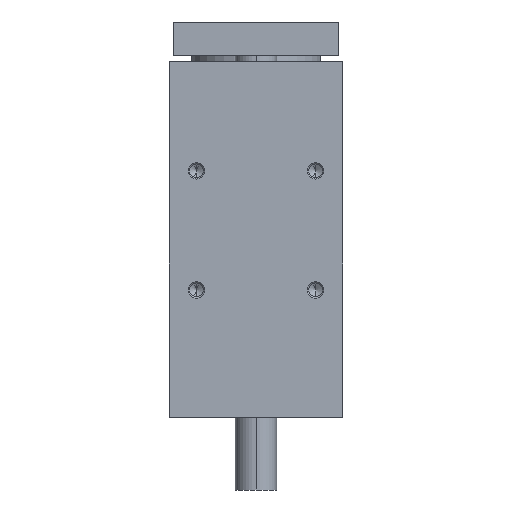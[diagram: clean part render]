
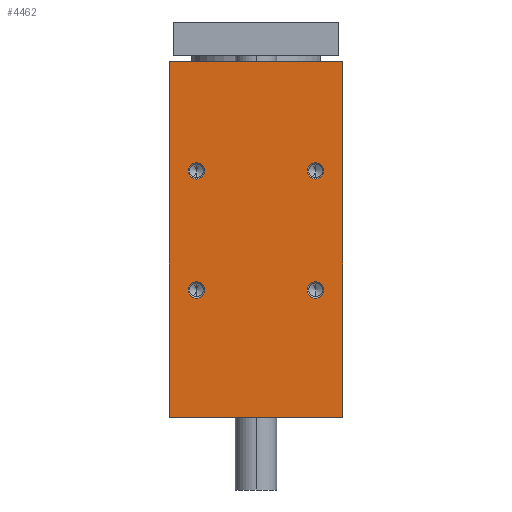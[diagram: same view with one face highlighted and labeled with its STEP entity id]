
A CAD part, left-side view. The second image highlights one B-rep face of the part: STEP entity #4462.
In plain terms, the highlighted planar face has unit normal (-1, 0, 0).
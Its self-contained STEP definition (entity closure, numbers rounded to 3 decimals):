
#45 = CIRCLE ( 'NONE', #2076, 5. ) ;
#90 = LINE ( 'NONE', #229, #6214 ) ;
#112 = VERTEX_POINT ( 'NONE', #4621 ) ;
#172 = AXIS2_PLACEMENT_3D ( 'NONE', #786, #3074, #4554 ) ;
#175 = CIRCLE ( 'NONE', #3772, 5. ) ;
#186 = CIRCLE ( 'NONE', #3788, 5. ) ;
#229 = CARTESIAN_POINT ( 'NONE',  ( -94.5, 52.5, -128. ) ) ;
#245 = VERTEX_POINT ( 'NONE', #6309 ) ;
#297 = DIRECTION ( 'NONE',  ( 1., 0., 0. ) ) ;
#320 = CIRCLE ( 'NONE', #3759, 5. ) ;
#361 = ORIENTED_EDGE ( 'NONE', *, *, #4418, .T. ) ;
#401 = DIRECTION ( 'NONE',  ( 1., 0., 0. ) ) ;
#677 = EDGE_CURVE ( 'NONE', #3695, #7508, #186, .T. ) ;
#786 = CARTESIAN_POINT ( 'NONE',  ( -94.5, -36., -51. ) ) ;
#856 = ORIENTED_EDGE ( 'NONE', *, *, #5081, .F. ) ;
#922 = FACE_BOUND ( 'NONE', #2478, .T. ) ;
#944 = CIRCLE ( 'NONE', #172, 5. ) ;
#969 = VERTEX_POINT ( 'NONE', #1096 ) ;
#1061 = VERTEX_POINT ( 'NONE', #5693 ) ;
#1096 = CARTESIAN_POINT ( 'NONE',  ( -94.5, 52.5, -128. ) ) ;
#1243 = EDGE_CURVE ( 'NONE', #8924, #245, #5931, .T. ) ;
#1315 = DIRECTION ( 'NONE',  ( 1., 0., 0. ) ) ;
#1356 = CARTESIAN_POINT ( 'NONE',  ( -94.5, 36., -51. ) ) ;
#1521 = ORIENTED_EDGE ( 'NONE', *, *, #3088, .T. ) ;
#1811 = EDGE_LOOP ( 'NONE', ( #3044, #6694 ) ) ;
#1816 = CARTESIAN_POINT ( 'NONE',  ( -94.5, -36., -56. ) ) ;
#2048 = EDGE_CURVE ( 'NONE', #4653, #112, #5811, .T. ) ;
#2076 = AXIS2_PLACEMENT_3D ( 'NONE', #9294, #5678, #3279 ) ;
#2226 = AXIS2_PLACEMENT_3D ( 'NONE', #2591, #297, #3335 ) ;
#2285 = LINE ( 'NONE', #7354, #4557 ) ;
#2306 = ORIENTED_EDGE ( 'NONE', *, *, #5959, .T. ) ;
#2478 = EDGE_LOOP ( 'NONE', ( #361, #8612 ) ) ;
#2545 = FACE_OUTER_BOUND ( 'NONE', #8052, .T. ) ;
#2591 = CARTESIAN_POINT ( 'NONE',  ( -94.5, 36., 21. ) ) ;
#2690 = EDGE_LOOP ( 'NONE', ( #2930, #5268 ) ) ;
#2782 = AXIS2_PLACEMENT_3D ( 'NONE', #2898, #8673, #5142 ) ;
#2898 = CARTESIAN_POINT ( 'NONE',  ( -94.5, 36., 21. ) ) ;
#2930 = ORIENTED_EDGE ( 'NONE', *, *, #3269, .T. ) ;
#3013 = AXIS2_PLACEMENT_3D ( 'NONE', #5571, #401, #8578 ) ;
#3044 = ORIENTED_EDGE ( 'NONE', *, *, #8735, .T. ) ;
#3074 = DIRECTION ( 'NONE',  ( 1., 0., 0. ) ) ;
#3088 = EDGE_CURVE ( 'NONE', #1061, #245, #4940, .T. ) ;
#3269 = EDGE_CURVE ( 'NONE', #7366, #8678, #944, .T. ) ;
#3279 = DIRECTION ( 'NONE',  ( 0., 0., -1. ) ) ;
#3335 = DIRECTION ( 'NONE',  ( 0., 0., -1. ) ) ;
#3695 = VERTEX_POINT ( 'NONE', #8317 ) ;
#3710 = DIRECTION ( 'NONE',  ( 0., 0., 1. ) ) ;
#3759 = AXIS2_PLACEMENT_3D ( 'NONE', #3825, #8095, #7377 ) ;
#3772 = AXIS2_PLACEMENT_3D ( 'NONE', #6629, #6585, #5122 ) ;
#3788 = AXIS2_PLACEMENT_3D ( 'NONE', #1356, #1315, #4335 ) ;
#3825 = CARTESIAN_POINT ( 'NONE',  ( -94.5, -36., 21. ) ) ;
#3905 = VECTOR ( 'NONE', #6252, 1000. ) ;
#3916 = VERTEX_POINT ( 'NONE', #5549 ) ;
#4222 = AXIS2_PLACEMENT_3D ( 'NONE', #7737, #8330, #9097 ) ;
#4335 = DIRECTION ( 'NONE',  ( 0., 0., -1. ) ) ;
#4417 = CIRCLE ( 'NONE', #3013, 5. ) ;
#4418 = EDGE_CURVE ( 'NONE', #3916, #6440, #320, .T. ) ;
#4422 = VECTOR ( 'NONE', #8889, 1000. ) ;
#4462 = ADVANCED_FACE ( 'NONE', ( #2545, #5517, #9242, #922, #5466 ), #7595, .F. ) ;
#4554 = DIRECTION ( 'NONE',  ( 0., 0., -1. ) ) ;
#4557 = VECTOR ( 'NONE', #3710, 1000. ) ;
#4621 = CARTESIAN_POINT ( 'NONE',  ( -94.5, 36., 26. ) ) ;
#4653 = VERTEX_POINT ( 'NONE', #9590 ) ;
#4940 = LINE ( 'NONE', #6400, #3905 ) ;
#5081 = EDGE_CURVE ( 'NONE', #969, #8924, #2285, .T. ) ;
#5122 = DIRECTION ( 'NONE',  ( 0., 0., -1. ) ) ;
#5142 = DIRECTION ( 'NONE',  ( 0., 0., -1. ) ) ;
#5206 = EDGE_CURVE ( 'NONE', #969, #1061, #90, .T. ) ;
#5268 = ORIENTED_EDGE ( 'NONE', *, *, #7718, .T. ) ;
#5466 = FACE_BOUND ( 'NONE', #9342, .T. ) ;
#5517 = FACE_BOUND ( 'NONE', #2690, .T. ) ;
#5549 = CARTESIAN_POINT ( 'NONE',  ( -94.5, -36., 26. ) ) ;
#5571 = CARTESIAN_POINT ( 'NONE',  ( -94.5, 36., -51. ) ) ;
#5678 = DIRECTION ( 'NONE',  ( 1., 0., 0. ) ) ;
#5693 = CARTESIAN_POINT ( 'NONE',  ( -94.5, -52.5, -128. ) ) ;
#5811 = CIRCLE ( 'NONE', #2226, 5. ) ;
#5931 = LINE ( 'NONE', #7480, #4422 ) ;
#5959 = EDGE_CURVE ( 'NONE', #112, #4653, #6207, .T. ) ;
#6207 = CIRCLE ( 'NONE', #2782, 5. ) ;
#6214 = VECTOR ( 'NONE', #6802, 1000. ) ;
#6252 = DIRECTION ( 'NONE',  ( 0., 0., 1. ) ) ;
#6309 = CARTESIAN_POINT ( 'NONE',  ( -94.5, -52.5, 87. ) ) ;
#6333 = ORIENTED_EDGE ( 'NONE', *, *, #1243, .F. ) ;
#6400 = CARTESIAN_POINT ( 'NONE',  ( -94.5, -52.5, -128. ) ) ;
#6440 = VERTEX_POINT ( 'NONE', #8274 ) ;
#6585 = DIRECTION ( 'NONE',  ( 1., 0., 0. ) ) ;
#6629 = CARTESIAN_POINT ( 'NONE',  ( -94.5, -36., -51. ) ) ;
#6694 = ORIENTED_EDGE ( 'NONE', *, *, #677, .T. ) ;
#6795 = ORIENTED_EDGE ( 'NONE', *, *, #2048, .T. ) ;
#6802 = DIRECTION ( 'NONE',  ( 0., -1., 0. ) ) ;
#6823 = ORIENTED_EDGE ( 'NONE', *, *, #5206, .T. ) ;
#7354 = CARTESIAN_POINT ( 'NONE',  ( -94.5, 52.5, -128. ) ) ;
#7366 = VERTEX_POINT ( 'NONE', #8501 ) ;
#7377 = DIRECTION ( 'NONE',  ( 0., 0., -1. ) ) ;
#7480 = CARTESIAN_POINT ( 'NONE',  ( -94.5, 52.5, 87. ) ) ;
#7508 = VERTEX_POINT ( 'NONE', #7783 ) ;
#7595 = PLANE ( 'NONE',  #4222 ) ;
#7718 = EDGE_CURVE ( 'NONE', #8678, #7366, #175, .T. ) ;
#7737 = CARTESIAN_POINT ( 'NONE',  ( -94.5, 52.5, -128. ) ) ;
#7783 = CARTESIAN_POINT ( 'NONE',  ( -94.5, 36., -46. ) ) ;
#8052 = EDGE_LOOP ( 'NONE', ( #1521, #6333, #856, #6823 ) ) ;
#8095 = DIRECTION ( 'NONE',  ( 1., 0., 0. ) ) ;
#8274 = CARTESIAN_POINT ( 'NONE',  ( -94.5, -36., 16. ) ) ;
#8317 = CARTESIAN_POINT ( 'NONE',  ( -94.5, 36., -56. ) ) ;
#8330 = DIRECTION ( 'NONE',  ( 1., 0., 0. ) ) ;
#8501 = CARTESIAN_POINT ( 'NONE',  ( -94.5, -36., -46. ) ) ;
#8578 = DIRECTION ( 'NONE',  ( 0., 0., -1. ) ) ;
#8612 = ORIENTED_EDGE ( 'NONE', *, *, #8679, .T. ) ;
#8673 = DIRECTION ( 'NONE',  ( 1., 0., 0. ) ) ;
#8678 = VERTEX_POINT ( 'NONE', #1816 ) ;
#8679 = EDGE_CURVE ( 'NONE', #6440, #3916, #45, .T. ) ;
#8735 = EDGE_CURVE ( 'NONE', #7508, #3695, #4417, .T. ) ;
#8889 = DIRECTION ( 'NONE',  ( 0., -1., 0. ) ) ;
#8924 = VERTEX_POINT ( 'NONE', #9503 ) ;
#9097 = DIRECTION ( 'NONE',  ( 0., 1., 0. ) ) ;
#9242 = FACE_BOUND ( 'NONE', #1811, .T. ) ;
#9294 = CARTESIAN_POINT ( 'NONE',  ( -94.5, -36., 21. ) ) ;
#9342 = EDGE_LOOP ( 'NONE', ( #2306, #6795 ) ) ;
#9503 = CARTESIAN_POINT ( 'NONE',  ( -94.5, 52.5, 87. ) ) ;
#9590 = CARTESIAN_POINT ( 'NONE',  ( -94.5, 36., 16. ) ) ;
